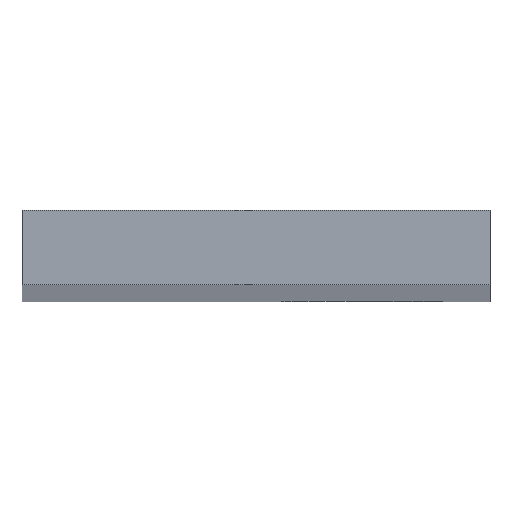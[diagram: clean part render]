
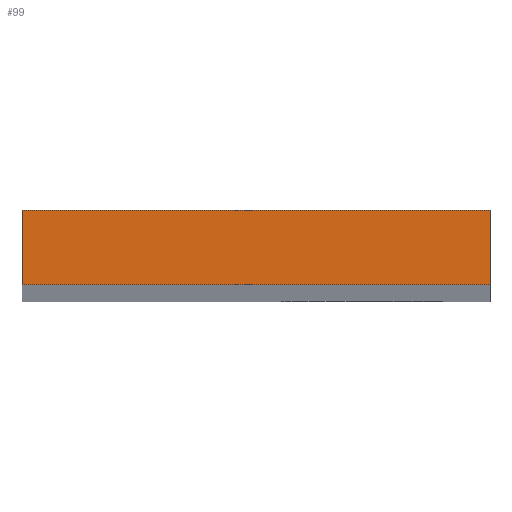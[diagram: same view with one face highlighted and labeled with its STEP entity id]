
A CAD part, top view. The second image highlights one B-rep face of the part: STEP entity #99.
In plain terms, the highlighted planar face has unit normal (0, 0, 1).
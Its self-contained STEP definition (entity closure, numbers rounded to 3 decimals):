
#24 = VERTEX_POINT('',#25);
#25 = CARTESIAN_POINT('',(572.6,409.238,628.5));
#40 = VERTEX_POINT('',#41);
#41 = CARTESIAN_POINT('',(572.6,414.,628.5));
#47 = EDGE_CURVE('',#24,#40,#48,.T.);
#48 = LINE('',#49,#50);
#49 = CARTESIAN_POINT('',(572.6,-4366.6,628.5));
#50 = VECTOR('',#51,1.);
#51 = DIRECTION('',(0.,1.,0.));
#71 = VERTEX_POINT('',#72);
#72 = CARTESIAN_POINT('',(602.5,409.238,628.5));
#78 = EDGE_CURVE('',#24,#71,#79,.T.);
#79 = LINE('',#80,#81);
#80 = CARTESIAN_POINT('',(561.512,409.238,628.5));
#81 = VECTOR('',#82,1.);
#82 = DIRECTION('',(1.,0.,0.));
#99 = ADVANCED_FACE('',(#100),#118,.T.);
#100 = FACE_BOUND('',#101,.T.);
#101 = EDGE_LOOP('',(#102,#103,#104,#112));
#102 = ORIENTED_EDGE('',*,*,#47,.F.);
#103 = ORIENTED_EDGE('',*,*,#78,.T.);
#104 = ORIENTED_EDGE('',*,*,#105,.T.);
#105 = EDGE_CURVE('',#71,#106,#108,.T.);
#106 = VERTEX_POINT('',#107);
#107 = CARTESIAN_POINT('',(602.5,414.,628.5));
#108 = LINE('',#109,#110);
#109 = CARTESIAN_POINT('',(602.5,690.25,628.5));
#110 = VECTOR('',#111,1.);
#111 = DIRECTION('',(0.,1.,0.));
#112 = ORIENTED_EDGE('',*,*,#113,.F.);
#113 = EDGE_CURVE('',#40,#106,#114,.T.);
#114 = LINE('',#115,#116);
#115 = CARTESIAN_POINT('',(559.25,414.,628.5));
#116 = VECTOR('',#117,1.);
#117 = DIRECTION('',(1.,0.,0.));
#118 = PLANE('',#119);
#119 = AXIS2_PLACEMENT_3D('',#120,#121,#122);
#120 = CARTESIAN_POINT('',(563.412,1266.8,628.5));
#121 = DIRECTION('',(0.,0.,1.));
#122 = DIRECTION('',(1.,0.,0.));
